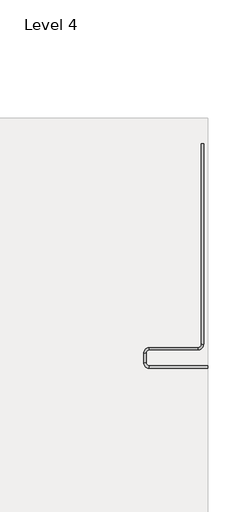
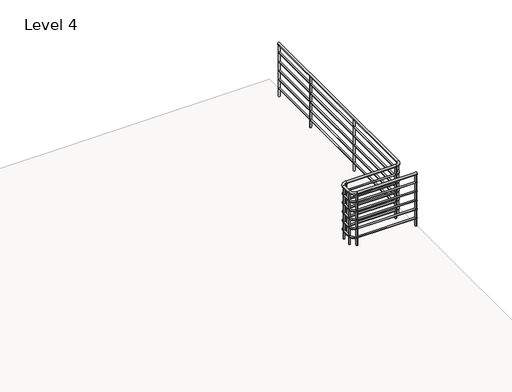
# One storey, part 3 of 4: 1 railing.
"""IFC4 building model written with IfcOpenShell, lengths in millimetres."""

from ifc_helpers import new_model, si_unit, point, frame, frame_2d, origin, place, context, project, spatial, circle_curve, ellipse_curve, trimmed, segment, composite_curve, outline, extrude, element, save
from ifc_brep_helpers import plane_surface, cylinder_surface, revolved_surface, advanced_brep

model = new_model("IFC4")

# Units and contexts
model_context = context("Model", 3, world=origin())
ifc_project = project(units=[si_unit("LENGTHUNIT", "METRE", prefix="MILLI")], contexts=[model_context])

# Site, building, storey
site = spatial("IfcSite", under=ifc_project)
building = spatial("IfcBuilding", under=site)
storey = spatial("IfcBuildingStorey", under=building, Name="Level 4", Elevation=10972.8)

# Railing
placement = place(None, origin())
element("IfcRailing", 1, ObjectType="Handrail - Pipe", at=placement, inside=storey, context=model_context, shape_type="SolidModel", body=[
    advanced_brep(
    [(18023.4049721, 512.0273319, 11868.15), (18023.4049721, 473.9273319, 11868.15), (17058.2049721, 512.0273319, 11868.15), (17058.2049721, 473.9273319, 11868.15), (16962.9549721, 569.1773319, 11868.15), (17001.0549721, 569.1773319, 11868.15), (17001.0549721, 721.5773319, 11868.15), (16962.9549721, 721.5773319, 11868.15), (17058.2049721, 816.8273319, 11868.15), (17058.2049721, 778.7273319, 11868.15), (17861.7339721, 778.7273319, 11868.15), (17861.7339721, 816.8273319, 11868.15), (17956.9839721, 4202.9648319, 11868.15), (17918.8839721, 4202.9648319, 11868.15), (17918.8839721, 873.9773319, 11868.15), (17956.9839721, 873.9773319, 11868.15)],
    [
        (0, 1, circle_curve(frame((18023.4049721, 492.9773319, 11868.15), z_axis=(1.0, 0.0, 0.0), x_axis=(0.0, -1.0, 0.0)), 19.05)),
        (1, 0, circle_curve(frame((18023.4049721, 492.9773319, 11868.15), z_axis=(1.0, 0.0, 0.0), x_axis=(0.0, -1.0, 0.0)), 19.05)),
        (0, 2),
        (2, 3, circle_curve(frame((17058.2049721, 492.9773319, 11868.15), z_axis=(1.0, 0.0, 0.0), x_axis=(0.0, -1.0, 0.0)), 19.05)),
        (3, 1),
        (3, 2, circle_curve(frame((17058.2049721, 492.9773319, 11868.15), z_axis=(1.0, 0.0, 0.0), x_axis=(0.0, -1.0, 0.0)), 19.05)),
        (4, 5, circle_curve(frame((16982.0049721, 569.1773319, 11868.15), z_axis=(0.0, 1.0, 0.0), x_axis=(-1.0, 0.0, 0.0)), 19.05)),
        (5, 6),
        (6, 7, circle_curve(frame((16982.0049721, 721.5773319, 11868.15), z_axis=(0.0, -1.0, 0.0), x_axis=(-1.0, 0.0, 0.0)), 19.05)),
        (7, 4),
        (5, 4, circle_curve(frame((16982.0049721, 569.1773319, 11868.15), z_axis=(0.0, 1.0, 0.0), x_axis=(-1.0, 0.0, 0.0)), 19.05)),
        (7, 6, circle_curve(frame((16982.0049721, 721.5773319, 11868.15), z_axis=(0.0, -1.0, 0.0), x_axis=(-1.0, 0.0, 0.0)), 19.05)),
        (8, 9, circle_curve(frame((17058.2049721, 797.7773319, 11868.15), z_axis=(1.0, 0.0, 0.0), x_axis=(0.0, 1.0, 0.0)), 19.05)),
        (9, 10),
        (10, 11, circle_curve(frame((17861.7339721, 797.7773319, 11868.15), z_axis=(-1.0, 0.0, 0.0), x_axis=(0.0, 1.0, 0.0)), 19.05)),
        (11, 8),
        (9, 8, circle_curve(frame((17058.2049721, 797.7773319, 11868.15), z_axis=(1.0, 0.0, 0.0), x_axis=(0.0, 1.0, 0.0)), 19.05)),
        (11, 10, circle_curve(frame((17861.7339721, 797.7773319, 11868.15), z_axis=(-1.0, 0.0, 0.0), x_axis=(0.0, 1.0, 0.0)), 19.05)),
        (12, 13, circle_curve(frame((17937.9339721, 4202.9648319, 11868.15), z_axis=(0.0, 1.0, 0.0), x_axis=(-1.0, 0.0, 0.0)), 19.05)),
        (13, 12, circle_curve(frame((17937.9339721, 4202.9648319, 11868.15), z_axis=(0.0, 1.0, 0.0), x_axis=(-1.0, 0.0, 0.0)), 19.05)),
        (14, 15, circle_curve(frame((17937.9339721, 873.9773319, 11868.15), z_axis=(0.0, 1.0, 0.0), x_axis=(-1.0, 0.0, 0.0)), 19.05)),
        (15, 12),
        (13, 14),
        (15, 14, circle_curve(frame((17937.9339721, 873.9773319, 11868.15), z_axis=(0.0, 1.0, 0.0), x_axis=(-1.0, 0.0, 0.0)), 19.05)),
        (4, 3, circle_curve(frame((17058.2049721, 569.1773319, 11868.15), z_axis=(0.0, 0.0, 1.0), x_axis=(0.0, -1.0, 0.0)), 95.25)),
        (2, 5, circle_curve(frame((17058.2049721, 569.1773319, 11868.15), z_axis=(0.0, 0.0, -1.0), x_axis=(0.0, -1.0, 0.0)), 57.15)),
        (8, 7, circle_curve(frame((17058.2049721, 721.5773319, 11868.15), z_axis=(0.0, 0.0, 1.0), x_axis=(-1.0, 0.0, 0.0)), 95.25)),
        (6, 9, circle_curve(frame((17058.2049721, 721.5773319, 11868.15), z_axis=(0.0, 0.0, -1.0), x_axis=(-1.0, 0.0, 0.0)), 57.15)),
        (14, 11, circle_curve(frame((17861.7339721, 873.9773319, 11868.15), z_axis=(0.0, 0.0, -1.0), x_axis=(0.0, -1.0, 0.0)), 57.15)),
        (10, 15, circle_curve(frame((17861.7339721, 873.9773319, 11868.15), z_axis=(0.0, 0.0, 1.0), x_axis=(0.0, -1.0, 0.0)), 95.25)),
    ],
    [
        plane_surface(frame((18023.4049721, 492.9773319, 11887.2), z_axis=(1.0, 0.0, 0.0), x_axis=(0.0, -1.0, 0.0))),
        cylinder_surface(frame((18023.4049721, 492.9773319, 11868.15), z_axis=(1.0, 0.0, 0.0), x_axis=(0.0, -1.0, 0.0)), 19.05),
        cylinder_surface(frame((16982.0049721, 569.1773319, 11868.15), z_axis=(0.0, -1.0, 0.0), x_axis=(-1.0, 0.0, 0.0)), 19.05),
        cylinder_surface(frame((17058.2049721, 797.7773319, 11868.15), z_axis=(-1.0, 0.0, 0.0), x_axis=(0.0, 1.0, 0.0)), 19.05),
        plane_surface(frame((17937.9339721, 4202.9648319, 11887.2), z_axis=(0.0, 1.0, 0.0), x_axis=(0.0, 0.0, 1.0))),
        cylinder_surface(frame((17937.9339721, 873.9773319, 11868.15), z_axis=(0.0, -1.0, 0.0), x_axis=(-1.0, 0.0, 0.0)), 19.05),
        revolved_surface(trimmed(ellipse_curve(frame((17058.2049721, 492.9773319, 11868.15), z_axis=(1.0, 0.0, 0.0), x_axis=(0.0, -1.0, 0.0)), 19.05, 19.05), [point((17058.2049721, 512.0273319, 11868.15))], [point((17058.2049721, 473.9273319, 11868.15))], True, "CARTESIAN"), (17058.2049721, 569.1773319, 11887.2), (0.0, 0.0, -1.0)),
        revolved_surface(trimmed(ellipse_curve(frame((17058.2049721, 492.9773319, 11868.15), z_axis=(1.0, 0.0, 0.0), x_axis=(0.0, -1.0, 0.0)), 19.05, 19.05), [point((17058.2049721, 473.9273319, 11868.15))], [point((17058.2049721, 512.0273319, 11868.15))], True, "CARTESIAN"), (17058.2049721, 569.1773319, 11887.2), (0.0, 0.0, -1.0)),
        revolved_surface(trimmed(ellipse_curve(frame((16982.0049721, 721.5773319, 11868.15), z_axis=(0.0, -1.0, 0.0), x_axis=(-1.0, 0.0, 0.0)), 19.05, 19.05), [point((17001.0549721, 721.5773319, 11868.15))], [point((16962.9549721, 721.5773319, 11868.15))], True, "CARTESIAN"), (17058.2049721, 721.5773319, 11887.2), (0.0, 0.0, -1.0)),
        revolved_surface(trimmed(ellipse_curve(frame((16982.0049721, 721.5773319, 11868.15), z_axis=(0.0, -1.0, 0.0), x_axis=(-1.0, 0.0, 0.0)), 19.05, 19.05), [point((16962.9549721, 721.5773319, 11868.15))], [point((17001.0549721, 721.5773319, 11868.15))], True, "CARTESIAN"), (17058.2049721, 721.5773319, 11887.2), (0.0, 0.0, -1.0)),
        revolved_surface(trimmed(ellipse_curve(frame((17861.7339721, 797.7773319, 11868.15), z_axis=(-1.0, 0.0, 0.0), x_axis=(0.0, 1.0, 0.0)), 19.05, 19.05), [point((17861.7339721, 778.7273319, 11868.15))], [point((17861.7339721, 816.8273319, 11868.15))], True, "CARTESIAN"), (17861.7339721, 873.9773319, 11887.2), (0.0, 0.0, 1.0)),
        revolved_surface(trimmed(ellipse_curve(frame((17861.7339721, 797.7773319, 11868.15), z_axis=(-1.0, 0.0, 0.0), x_axis=(0.0, 1.0, 0.0)), 19.05, 19.05), [point((17861.7339721, 816.8273319, 11868.15))], [point((17861.7339721, 778.7273319, 11868.15))], True, "CARTESIAN"), (17861.7339721, 873.9773319, 11887.2), (0.0, 0.0, 1.0)),
    ],
    [
        (0, [[1, 2]]),
        (1, [[-1, 3, 4, 5]]),
        (1, [[-2, -5, 6, -3]]),
        (2, [[7, 8, 9, 10]]),
        (2, [[11, -10, 12, -8]]),
        (3, [[13, 14, 15, 16]]),
        (3, [[17, -16, 18, -14]]),
        (4, [[19, 20]]),
        (5, [[21, 22, -20, 23]]),
        (5, [[24, -23, -19, -22]]),
        (6, [[25, -4, 26, -7]]),
        (7, [[-26, -6, -25, -11]]),
        (8, [[27, -9, 28, -13]]),
        (9, [[-28, -12, -27, -17]]),
        (10, [[29, -15, 30, -21]]),
        (11, [[-30, -18, -29, -24]]),
    ],
),
    advanced_brep(
    [(18023.4049721, 505.6773319, 11722.1), (18023.4049721, 480.2773319, 11722.1), (17058.2049721, 480.2773319, 11722.1), (17058.2049721, 505.6773319, 11722.1), (16994.7049721, 569.1773319, 11722.1), (16969.3049721, 569.1773319, 11722.1), (16969.3049721, 721.5773319, 11722.1), (16994.7049721, 721.5773319, 11722.1), (17058.2049721, 785.0773319, 11722.1), (17058.2049721, 810.4773319, 11722.1), (17861.7339721, 810.4773319, 11722.1), (17861.7339721, 785.0773319, 11722.1), (17950.6339721, 4202.9648319, 11722.1), (17925.2339721, 4202.9648319, 11722.1), (17950.6339721, 873.9773319, 11722.1), (17925.2339721, 873.9773319, 11722.1)],
    [
        (0, 1, circle_curve(frame((18023.4049721, 492.9773319, 11722.1), z_axis=(1.0, 0.0, 0.0), x_axis=(0.0, -1.0, 0.0)), 12.7)),
        (1, 0, circle_curve(frame((18023.4049721, 492.9773319, 11722.1), z_axis=(1.0, 0.0, 0.0), x_axis=(0.0, -1.0, 0.0)), 12.7)),
        (1, 2),
        (2, 3, circle_curve(frame((17058.2049721, 492.9773319, 11722.1), z_axis=(1.0, 0.0, 0.0), x_axis=(0.0, -1.0, 0.0)), 12.7)),
        (3, 0),
        (3, 2, circle_curve(frame((17058.2049721, 492.9773319, 11722.1), z_axis=(1.0, 0.0, 0.0), x_axis=(0.0, -1.0, 0.0)), 12.7)),
        (4, 5, circle_curve(frame((16982.0049721, 569.1773319, 11722.1), z_axis=(0.0, 1.0, 0.0), x_axis=(-1.0, 0.0, 0.0)), 12.7)),
        (5, 6),
        (6, 7, circle_curve(frame((16982.0049721, 721.5773319, 11722.1), z_axis=(0.0, -1.0, 0.0), x_axis=(-1.0, 0.0, 0.0)), 12.7)),
        (7, 4),
        (5, 4, circle_curve(frame((16982.0049721, 569.1773319, 11722.1), z_axis=(0.0, 1.0, 0.0), x_axis=(-1.0, 0.0, 0.0)), 12.7)),
        (7, 6, circle_curve(frame((16982.0049721, 721.5773319, 11722.1), z_axis=(0.0, -1.0, 0.0), x_axis=(-1.0, 0.0, 0.0)), 12.7)),
        (8, 9, circle_curve(frame((17058.2049721, 797.7773319, 11722.1), z_axis=(1.0, 0.0, 0.0), x_axis=(0.0, 1.0, 0.0)), 12.7)),
        (9, 10),
        (10, 11, circle_curve(frame((17861.7339721, 797.7773319, 11722.1), z_axis=(-1.0, 0.0, 0.0), x_axis=(0.0, 1.0, 0.0)), 12.7)),
        (11, 8),
        (9, 8, circle_curve(frame((17058.2049721, 797.7773319, 11722.1), z_axis=(1.0, 0.0, 0.0), x_axis=(0.0, 1.0, 0.0)), 12.7)),
        (11, 10, circle_curve(frame((17861.7339721, 797.7773319, 11722.1), z_axis=(-1.0, 0.0, 0.0), x_axis=(0.0, 1.0, 0.0)), 12.7)),
        (12, 13, circle_curve(frame((17937.9339721, 4202.9648319, 11722.1), z_axis=(0.0, 1.0, 0.0), x_axis=(-1.0, 0.0, 0.0)), 12.7)),
        (13, 12, circle_curve(frame((17937.9339721, 4202.9648319, 11722.1), z_axis=(0.0, 1.0, 0.0), x_axis=(-1.0, 0.0, 0.0)), 12.7)),
        (14, 15, circle_curve(frame((17937.9339721, 873.9773319, 11722.1), z_axis=(0.0, 1.0, 0.0), x_axis=(-1.0, 0.0, 0.0)), 12.7)),
        (15, 13),
        (12, 14),
        (15, 14, circle_curve(frame((17937.9339721, 873.9773319, 11722.1), z_axis=(0.0, 1.0, 0.0), x_axis=(-1.0, 0.0, 0.0)), 12.7)),
        (4, 3, circle_curve(frame((17058.2049721, 569.1773319, 11722.1), z_axis=(0.0, 0.0, 1.0), x_axis=(0.0, -1.0, 0.0)), 63.5)),
        (2, 5, circle_curve(frame((17058.2049721, 569.1773319, 11722.1), z_axis=(0.0, 0.0, -1.0), x_axis=(0.0, -1.0, 0.0)), 88.9)),
        (8, 7, circle_curve(frame((17058.2049721, 721.5773319, 11722.1), z_axis=(0.0, 0.0, 1.0), x_axis=(-1.0, 0.0, 0.0)), 63.5)),
        (6, 9, circle_curve(frame((17058.2049721, 721.5773319, 11722.1), z_axis=(0.0, 0.0, -1.0), x_axis=(-1.0, 0.0, 0.0)), 88.9)),
        (14, 11, circle_curve(frame((17861.7339721, 873.9773319, 11722.1), z_axis=(0.0, 0.0, -1.0), x_axis=(0.0, -1.0, 0.0)), 88.9)),
        (10, 15, circle_curve(frame((17861.7339721, 873.9773319, 11722.1), z_axis=(0.0, 0.0, 1.0), x_axis=(0.0, -1.0, 0.0)), 63.5)),
    ],
    [
        plane_surface(frame((18023.4049721, 492.9773319, 11734.8), z_axis=(1.0, 0.0, 0.0), x_axis=(0.0, -1.0, 0.0))),
        cylinder_surface(frame((18023.4049721, 492.9773319, 11722.1), z_axis=(1.0, 0.0, 0.0), x_axis=(0.0, -1.0, 0.0)), 12.7),
        cylinder_surface(frame((16982.0049721, 569.1773319, 11722.1), z_axis=(0.0, -1.0, 0.0), x_axis=(-1.0, 0.0, 0.0)), 12.7),
        cylinder_surface(frame((17058.2049721, 797.7773319, 11722.1), z_axis=(-1.0, 0.0, 0.0), x_axis=(0.0, 1.0, 0.0)), 12.7),
        plane_surface(frame((17937.9339721, 4202.9648319, 11734.8), z_axis=(0.0, 1.0, 0.0), x_axis=(0.0, 0.0, 1.0))),
        cylinder_surface(frame((17937.9339721, 873.9773319, 11722.1), z_axis=(0.0, -1.0, 0.0), x_axis=(-1.0, 0.0, 0.0)), 12.7),
        revolved_surface(trimmed(ellipse_curve(frame((17058.2049721, 492.9773319, 11722.1), z_axis=(1.0, 0.0, 0.0), x_axis=(0.0, -1.0, 0.0)), 12.7, 12.7), [point((17058.2049721, 480.2773319, 11722.1))], [point((17058.2049721, 505.6773319, 11722.1))], True, "CARTESIAN"), (17058.2049721, 569.1773319, 11734.8), (0.0, 0.0, -1.0)),
        revolved_surface(trimmed(ellipse_curve(frame((17058.2049721, 492.9773319, 11722.1), z_axis=(1.0, 0.0, 0.0), x_axis=(0.0, -1.0, 0.0)), 12.7, 12.7), [point((17058.2049721, 505.6773319, 11722.1))], [point((17058.2049721, 480.2773319, 11722.1))], True, "CARTESIAN"), (17058.2049721, 569.1773319, 11734.8), (0.0, 0.0, -1.0)),
        revolved_surface(trimmed(ellipse_curve(frame((16982.0049721, 721.5773319, 11722.1), z_axis=(0.0, -1.0, 0.0), x_axis=(-1.0, 0.0, 0.0)), 12.7, 12.7), [point((16969.3049721, 721.5773319, 11722.1))], [point((16994.7049721, 721.5773319, 11722.1))], True, "CARTESIAN"), (17058.2049721, 721.5773319, 11734.8), (0.0, 0.0, -1.0)),
        revolved_surface(trimmed(ellipse_curve(frame((16982.0049721, 721.5773319, 11722.1), z_axis=(0.0, -1.0, 0.0), x_axis=(-1.0, 0.0, 0.0)), 12.7, 12.7), [point((16994.7049721, 721.5773319, 11722.1))], [point((16969.3049721, 721.5773319, 11722.1))], True, "CARTESIAN"), (17058.2049721, 721.5773319, 11734.8), (0.0, 0.0, -1.0)),
        revolved_surface(trimmed(ellipse_curve(frame((17861.7339721, 797.7773319, 11722.1), z_axis=(-1.0, 0.0, 0.0), x_axis=(0.0, 1.0, 0.0)), 12.7, 12.7), [point((17861.7339721, 810.4773319, 11722.1))], [point((17861.7339721, 785.0773319, 11722.1))], True, "CARTESIAN"), (17861.7339721, 873.9773319, 11734.8), (0.0, 0.0, 1.0)),
        revolved_surface(trimmed(ellipse_curve(frame((17861.7339721, 797.7773319, 11722.1), z_axis=(-1.0, 0.0, 0.0), x_axis=(0.0, 1.0, 0.0)), 12.7, 12.7), [point((17861.7339721, 785.0773319, 11722.1))], [point((17861.7339721, 810.4773319, 11722.1))], True, "CARTESIAN"), (17861.7339721, 873.9773319, 11734.8), (0.0, 0.0, 1.0)),
    ],
    [
        (0, [[1, 2]]),
        (1, [[-2, 3, 4, 5]]),
        (1, [[-1, -5, 6, -3]]),
        (2, [[7, 8, 9, 10]]),
        (2, [[11, -10, 12, -8]]),
        (3, [[13, 14, 15, 16]]),
        (3, [[17, -16, 18, -14]]),
        (4, [[19, 20]]),
        (5, [[21, 22, -19, 23]]),
        (5, [[24, -23, -20, -22]]),
        (6, [[25, -4, 26, -7]]),
        (7, [[-26, -6, -25, -11]]),
        (8, [[27, -9, 28, -13]]),
        (9, [[-28, -12, -27, -17]]),
        (10, [[29, -15, 30, -21]]),
        (11, [[-30, -18, -29, -24]]),
    ],
),
    advanced_brep(
    [(18023.4049721, 505.6773319, 11569.7), (18023.4049721, 480.2773319, 11569.7), (17058.2049721, 480.2773319, 11569.7), (17058.2049721, 505.6773319, 11569.7), (16994.7049721, 569.1773319, 11569.7), (16969.3049721, 569.1773319, 11569.7), (16969.3049721, 721.5773319, 11569.7), (16994.7049721, 721.5773319, 11569.7), (17058.2049721, 785.0773319, 11569.7), (17058.2049721, 810.4773319, 11569.7), (17861.7339721, 810.4773319, 11569.7), (17861.7339721, 785.0773319, 11569.7), (17950.6339721, 4202.9648319, 11569.7), (17925.2339721, 4202.9648319, 11569.7), (17950.6339721, 873.9773319, 11569.7), (17925.2339721, 873.9773319, 11569.7)],
    [
        (0, 1, circle_curve(frame((18023.4049721, 492.9773319, 11569.7), z_axis=(1.0, 0.0, 0.0), x_axis=(0.0, -1.0, 0.0)), 12.7)),
        (1, 0, circle_curve(frame((18023.4049721, 492.9773319, 11569.7), z_axis=(1.0, 0.0, 0.0), x_axis=(0.0, -1.0, 0.0)), 12.7)),
        (1, 2),
        (2, 3, circle_curve(frame((17058.2049721, 492.9773319, 11569.7), z_axis=(1.0, 0.0, 0.0), x_axis=(0.0, -1.0, 0.0)), 12.7)),
        (3, 0),
        (3, 2, circle_curve(frame((17058.2049721, 492.9773319, 11569.7), z_axis=(1.0, 0.0, 0.0), x_axis=(0.0, -1.0, 0.0)), 12.7)),
        (4, 5, circle_curve(frame((16982.0049721, 569.1773319, 11569.7), z_axis=(0.0, 1.0, 0.0), x_axis=(-1.0, 0.0, 0.0)), 12.7)),
        (5, 6),
        (6, 7, circle_curve(frame((16982.0049721, 721.5773319, 11569.7), z_axis=(0.0, -1.0, 0.0), x_axis=(-1.0, 0.0, 0.0)), 12.7)),
        (7, 4),
        (5, 4, circle_curve(frame((16982.0049721, 569.1773319, 11569.7), z_axis=(0.0, 1.0, 0.0), x_axis=(-1.0, 0.0, 0.0)), 12.7)),
        (7, 6, circle_curve(frame((16982.0049721, 721.5773319, 11569.7), z_axis=(0.0, -1.0, 0.0), x_axis=(-1.0, 0.0, 0.0)), 12.7)),
        (8, 9, circle_curve(frame((17058.2049721, 797.7773319, 11569.7), z_axis=(1.0, 0.0, 0.0), x_axis=(0.0, 1.0, 0.0)), 12.7)),
        (9, 10),
        (10, 11, circle_curve(frame((17861.7339721, 797.7773319, 11569.7), z_axis=(-1.0, 0.0, 0.0), x_axis=(0.0, 1.0, 0.0)), 12.7)),
        (11, 8),
        (9, 8, circle_curve(frame((17058.2049721, 797.7773319, 11569.7), z_axis=(1.0, 0.0, 0.0), x_axis=(0.0, 1.0, 0.0)), 12.7)),
        (11, 10, circle_curve(frame((17861.7339721, 797.7773319, 11569.7), z_axis=(-1.0, 0.0, 0.0), x_axis=(0.0, 1.0, 0.0)), 12.7)),
        (12, 13, circle_curve(frame((17937.9339721, 4202.9648319, 11569.7), z_axis=(0.0, 1.0, 0.0), x_axis=(-1.0, 0.0, 0.0)), 12.7)),
        (13, 12, circle_curve(frame((17937.9339721, 4202.9648319, 11569.7), z_axis=(0.0, 1.0, 0.0), x_axis=(-1.0, 0.0, 0.0)), 12.7)),
        (14, 15, circle_curve(frame((17937.9339721, 873.9773319, 11569.7), z_axis=(0.0, 1.0, 0.0), x_axis=(-1.0, 0.0, 0.0)), 12.7)),
        (15, 13),
        (12, 14),
        (15, 14, circle_curve(frame((17937.9339721, 873.9773319, 11569.7), z_axis=(0.0, 1.0, 0.0), x_axis=(-1.0, 0.0, 0.0)), 12.7)),
        (4, 3, circle_curve(frame((17058.2049721, 569.1773319, 11569.7), z_axis=(0.0, 0.0, 1.0), x_axis=(0.0, -1.0, 0.0)), 63.5)),
        (2, 5, circle_curve(frame((17058.2049721, 569.1773319, 11569.7), z_axis=(0.0, 0.0, -1.0), x_axis=(0.0, -1.0, 0.0)), 88.9)),
        (8, 7, circle_curve(frame((17058.2049721, 721.5773319, 11569.7), z_axis=(0.0, 0.0, 1.0), x_axis=(-1.0, 0.0, 0.0)), 63.5)),
        (6, 9, circle_curve(frame((17058.2049721, 721.5773319, 11569.7), z_axis=(0.0, 0.0, -1.0), x_axis=(-1.0, 0.0, 0.0)), 88.9)),
        (14, 11, circle_curve(frame((17861.7339721, 873.9773319, 11569.7), z_axis=(0.0, 0.0, -1.0), x_axis=(0.0, -1.0, 0.0)), 88.9)),
        (10, 15, circle_curve(frame((17861.7339721, 873.9773319, 11569.7), z_axis=(0.0, 0.0, 1.0), x_axis=(0.0, -1.0, 0.0)), 63.5)),
    ],
    [
        plane_surface(frame((18023.4049721, 492.9773319, 11582.4), z_axis=(1.0, 0.0, 0.0), x_axis=(0.0, -1.0, 0.0))),
        cylinder_surface(frame((18023.4049721, 492.9773319, 11569.7), z_axis=(1.0, 0.0, 0.0), x_axis=(0.0, -1.0, 0.0)), 12.7),
        cylinder_surface(frame((16982.0049721, 569.1773319, 11569.7), z_axis=(0.0, -1.0, 0.0), x_axis=(-1.0, 0.0, 0.0)), 12.7),
        cylinder_surface(frame((17058.2049721, 797.7773319, 11569.7), z_axis=(-1.0, 0.0, 0.0), x_axis=(0.0, 1.0, 0.0)), 12.7),
        plane_surface(frame((17937.9339721, 4202.9648319, 11582.4), z_axis=(0.0, 1.0, 0.0), x_axis=(0.0, 0.0, 1.0))),
        cylinder_surface(frame((17937.9339721, 873.9773319, 11569.7), z_axis=(0.0, -1.0, 0.0), x_axis=(-1.0, 0.0, 0.0)), 12.7),
        revolved_surface(trimmed(ellipse_curve(frame((17058.2049721, 492.9773319, 11569.7), z_axis=(1.0, 0.0, 0.0), x_axis=(0.0, -1.0, 0.0)), 12.7, 12.7), [point((17058.2049721, 480.2773319, 11569.7))], [point((17058.2049721, 505.6773319, 11569.7))], True, "CARTESIAN"), (17058.2049721, 569.1773319, 11582.4), (0.0, 0.0, -1.0)),
        revolved_surface(trimmed(ellipse_curve(frame((17058.2049721, 492.9773319, 11569.7), z_axis=(1.0, 0.0, 0.0), x_axis=(0.0, -1.0, 0.0)), 12.7, 12.7), [point((17058.2049721, 505.6773319, 11569.7))], [point((17058.2049721, 480.2773319, 11569.7))], True, "CARTESIAN"), (17058.2049721, 569.1773319, 11582.4), (0.0, 0.0, -1.0)),
        revolved_surface(trimmed(ellipse_curve(frame((16982.0049721, 721.5773319, 11569.7), z_axis=(0.0, -1.0, 0.0), x_axis=(-1.0, 0.0, 0.0)), 12.7, 12.7), [point((16969.3049721, 721.5773319, 11569.7))], [point((16994.7049721, 721.5773319, 11569.7))], True, "CARTESIAN"), (17058.2049721, 721.5773319, 11582.4), (0.0, 0.0, -1.0)),
        revolved_surface(trimmed(ellipse_curve(frame((16982.0049721, 721.5773319, 11569.7), z_axis=(0.0, -1.0, 0.0), x_axis=(-1.0, 0.0, 0.0)), 12.7, 12.7), [point((16994.7049721, 721.5773319, 11569.7))], [point((16969.3049721, 721.5773319, 11569.7))], True, "CARTESIAN"), (17058.2049721, 721.5773319, 11582.4), (0.0, 0.0, -1.0)),
        revolved_surface(trimmed(ellipse_curve(frame((17861.7339721, 797.7773319, 11569.7), z_axis=(-1.0, 0.0, 0.0), x_axis=(0.0, 1.0, 0.0)), 12.7, 12.7), [point((17861.7339721, 810.4773319, 11569.7))], [point((17861.7339721, 785.0773319, 11569.7))], True, "CARTESIAN"), (17861.7339721, 873.9773319, 11582.4), (0.0, 0.0, 1.0)),
        revolved_surface(trimmed(ellipse_curve(frame((17861.7339721, 797.7773319, 11569.7), z_axis=(-1.0, 0.0, 0.0), x_axis=(0.0, 1.0, 0.0)), 12.7, 12.7), [point((17861.7339721, 785.0773319, 11569.7))], [point((17861.7339721, 810.4773319, 11569.7))], True, "CARTESIAN"), (17861.7339721, 873.9773319, 11582.4), (0.0, 0.0, 1.0)),
    ],
    [
        (0, [[1, 2]]),
        (1, [[-2, 3, 4, 5]]),
        (1, [[-1, -5, 6, -3]]),
        (2, [[7, 8, 9, 10]]),
        (2, [[11, -10, 12, -8]]),
        (3, [[13, 14, 15, 16]]),
        (3, [[17, -16, 18, -14]]),
        (4, [[19, 20]]),
        (5, [[21, 22, -19, 23]]),
        (5, [[24, -23, -20, -22]]),
        (6, [[25, -4, 26, -7]]),
        (7, [[-26, -6, -25, -11]]),
        (8, [[27, -9, 28, -13]]),
        (9, [[-28, -12, -27, -17]]),
        (10, [[29, -15, 30, -21]]),
        (11, [[-30, -18, -29, -24]]),
    ],
),
    advanced_brep(
    [(18023.4049721, 505.6773319, 11417.3), (18023.4049721, 480.2773319, 11417.3), (17058.2049721, 480.2773319, 11417.3), (17058.2049721, 505.6773319, 11417.3), (16994.7049721, 569.1773319, 11417.3), (16969.3049721, 569.1773319, 11417.3), (16969.3049721, 721.5773319, 11417.3), (16994.7049721, 721.5773319, 11417.3), (17058.2049721, 785.0773319, 11417.3), (17058.2049721, 810.4773319, 11417.3), (17861.7339721, 810.4773319, 11417.3), (17861.7339721, 785.0773319, 11417.3), (17950.6339721, 4202.9648319, 11417.3), (17925.2339721, 4202.9648319, 11417.3), (17950.6339721, 873.9773319, 11417.3), (17925.2339721, 873.9773319, 11417.3)],
    [
        (0, 1, circle_curve(frame((18023.4049721, 492.9773319, 11417.3), z_axis=(1.0, 0.0, 0.0), x_axis=(0.0, -1.0, 0.0)), 12.7)),
        (1, 0, circle_curve(frame((18023.4049721, 492.9773319, 11417.3), z_axis=(1.0, 0.0, 0.0), x_axis=(0.0, -1.0, 0.0)), 12.7)),
        (1, 2),
        (2, 3, circle_curve(frame((17058.2049721, 492.9773319, 11417.3), z_axis=(1.0, 0.0, 0.0), x_axis=(0.0, -1.0, 0.0)), 12.7)),
        (3, 0),
        (3, 2, circle_curve(frame((17058.2049721, 492.9773319, 11417.3), z_axis=(1.0, 0.0, 0.0), x_axis=(0.0, -1.0, 0.0)), 12.7)),
        (4, 5, circle_curve(frame((16982.0049721, 569.1773319, 11417.3), z_axis=(0.0, 1.0, 0.0), x_axis=(-1.0, 0.0, 0.0)), 12.7)),
        (5, 6),
        (6, 7, circle_curve(frame((16982.0049721, 721.5773319, 11417.3), z_axis=(0.0, -1.0, 0.0), x_axis=(-1.0, 0.0, 0.0)), 12.7)),
        (7, 4),
        (5, 4, circle_curve(frame((16982.0049721, 569.1773319, 11417.3), z_axis=(0.0, 1.0, 0.0), x_axis=(-1.0, 0.0, 0.0)), 12.7)),
        (7, 6, circle_curve(frame((16982.0049721, 721.5773319, 11417.3), z_axis=(0.0, -1.0, 0.0), x_axis=(-1.0, 0.0, 0.0)), 12.7)),
        (8, 9, circle_curve(frame((17058.2049721, 797.7773319, 11417.3), z_axis=(1.0, 0.0, 0.0), x_axis=(0.0, 1.0, 0.0)), 12.7)),
        (9, 10),
        (10, 11, circle_curve(frame((17861.7339721, 797.7773319, 11417.3), z_axis=(-1.0, 0.0, 0.0), x_axis=(0.0, 1.0, 0.0)), 12.7)),
        (11, 8),
        (9, 8, circle_curve(frame((17058.2049721, 797.7773319, 11417.3), z_axis=(1.0, 0.0, 0.0), x_axis=(0.0, 1.0, 0.0)), 12.7)),
        (11, 10, circle_curve(frame((17861.7339721, 797.7773319, 11417.3), z_axis=(-1.0, 0.0, 0.0), x_axis=(0.0, 1.0, 0.0)), 12.7)),
        (12, 13, circle_curve(frame((17937.9339721, 4202.9648319, 11417.3), z_axis=(0.0, 1.0, 0.0), x_axis=(-1.0, 0.0, 0.0)), 12.7)),
        (13, 12, circle_curve(frame((17937.9339721, 4202.9648319, 11417.3), z_axis=(0.0, 1.0, 0.0), x_axis=(-1.0, 0.0, 0.0)), 12.7)),
        (14, 15, circle_curve(frame((17937.9339721, 873.9773319, 11417.3), z_axis=(0.0, 1.0, 0.0), x_axis=(-1.0, 0.0, 0.0)), 12.7)),
        (15, 13),
        (12, 14),
        (15, 14, circle_curve(frame((17937.9339721, 873.9773319, 11417.3), z_axis=(0.0, 1.0, 0.0), x_axis=(-1.0, 0.0, 0.0)), 12.7)),
        (4, 3, circle_curve(frame((17058.2049721, 569.1773319, 11417.3), z_axis=(0.0, 0.0, 1.0), x_axis=(0.0, -1.0, 0.0)), 63.5)),
        (2, 5, circle_curve(frame((17058.2049721, 569.1773319, 11417.3), z_axis=(0.0, 0.0, -1.0), x_axis=(0.0, -1.0, 0.0)), 88.9)),
        (8, 7, circle_curve(frame((17058.2049721, 721.5773319, 11417.3), z_axis=(0.0, 0.0, 1.0), x_axis=(-1.0, 0.0, 0.0)), 63.5)),
        (6, 9, circle_curve(frame((17058.2049721, 721.5773319, 11417.3), z_axis=(0.0, 0.0, -1.0), x_axis=(-1.0, 0.0, 0.0)), 88.9)),
        (14, 11, circle_curve(frame((17861.7339721, 873.9773319, 11417.3), z_axis=(0.0, 0.0, -1.0), x_axis=(0.0, -1.0, 0.0)), 88.9)),
        (10, 15, circle_curve(frame((17861.7339721, 873.9773319, 11417.3), z_axis=(0.0, 0.0, 1.0), x_axis=(0.0, -1.0, 0.0)), 63.5)),
    ],
    [
        plane_surface(frame((18023.4049721, 492.9773319, 11430.0), z_axis=(1.0, 0.0, 0.0), x_axis=(0.0, -1.0, 0.0))),
        cylinder_surface(frame((18023.4049721, 492.9773319, 11417.3), z_axis=(1.0, 0.0, 0.0), x_axis=(0.0, -1.0, 0.0)), 12.7),
        cylinder_surface(frame((16982.0049721, 569.1773319, 11417.3), z_axis=(0.0, -1.0, 0.0), x_axis=(-1.0, 0.0, 0.0)), 12.7),
        cylinder_surface(frame((17058.2049721, 797.7773319, 11417.3), z_axis=(-1.0, 0.0, 0.0), x_axis=(0.0, 1.0, 0.0)), 12.7),
        plane_surface(frame((17937.9339721, 4202.9648319, 11430.0), z_axis=(0.0, 1.0, 0.0), x_axis=(0.0, 0.0, 1.0))),
        cylinder_surface(frame((17937.9339721, 873.9773319, 11417.3), z_axis=(0.0, -1.0, 0.0), x_axis=(-1.0, 0.0, 0.0)), 12.7),
        revolved_surface(trimmed(ellipse_curve(frame((17058.2049721, 492.9773319, 11417.3), z_axis=(1.0, 0.0, 0.0), x_axis=(0.0, -1.0, 0.0)), 12.7, 12.7), [point((17058.2049721, 480.2773319, 11417.3))], [point((17058.2049721, 505.6773319, 11417.3))], True, "CARTESIAN"), (17058.2049721, 569.1773319, 11430.0), (0.0, 0.0, -1.0)),
        revolved_surface(trimmed(ellipse_curve(frame((17058.2049721, 492.9773319, 11417.3), z_axis=(1.0, 0.0, 0.0), x_axis=(0.0, -1.0, 0.0)), 12.7, 12.7), [point((17058.2049721, 505.6773319, 11417.3))], [point((17058.2049721, 480.2773319, 11417.3))], True, "CARTESIAN"), (17058.2049721, 569.1773319, 11430.0), (0.0, 0.0, -1.0)),
        revolved_surface(trimmed(ellipse_curve(frame((16982.0049721, 721.5773319, 11417.3), z_axis=(0.0, -1.0, 0.0), x_axis=(-1.0, 0.0, 0.0)), 12.7, 12.7), [point((16969.3049721, 721.5773319, 11417.3))], [point((16994.7049721, 721.5773319, 11417.3))], True, "CARTESIAN"), (17058.2049721, 721.5773319, 11430.0), (0.0, 0.0, -1.0)),
        revolved_surface(trimmed(ellipse_curve(frame((16982.0049721, 721.5773319, 11417.3), z_axis=(0.0, -1.0, 0.0), x_axis=(-1.0, 0.0, 0.0)), 12.7, 12.7), [point((16994.7049721, 721.5773319, 11417.3))], [point((16969.3049721, 721.5773319, 11417.3))], True, "CARTESIAN"), (17058.2049721, 721.5773319, 11430.0), (0.0, 0.0, -1.0)),
        revolved_surface(trimmed(ellipse_curve(frame((17861.7339721, 797.7773319, 11417.3), z_axis=(-1.0, 0.0, 0.0), x_axis=(0.0, 1.0, 0.0)), 12.7, 12.7), [point((17861.7339721, 810.4773319, 11417.3))], [point((17861.7339721, 785.0773319, 11417.3))], True, "CARTESIAN"), (17861.7339721, 873.9773319, 11430.0), (0.0, 0.0, 1.0)),
        revolved_surface(trimmed(ellipse_curve(frame((17861.7339721, 797.7773319, 11417.3), z_axis=(-1.0, 0.0, 0.0), x_axis=(0.0, 1.0, 0.0)), 12.7, 12.7), [point((17861.7339721, 785.0773319, 11417.3))], [point((17861.7339721, 810.4773319, 11417.3))], True, "CARTESIAN"), (17861.7339721, 873.9773319, 11430.0), (0.0, 0.0, 1.0)),
    ],
    [
        (0, [[1, 2]]),
        (1, [[-2, 3, 4, 5]]),
        (1, [[-1, -5, 6, -3]]),
        (2, [[7, 8, 9, 10]]),
        (2, [[11, -10, 12, -8]]),
        (3, [[13, 14, 15, 16]]),
        (3, [[17, -16, 18, -14]]),
        (4, [[19, 20]]),
        (5, [[21, 22, -19, 23]]),
        (5, [[24, -23, -20, -22]]),
        (6, [[25, -4, 26, -7]]),
        (7, [[-26, -6, -25, -11]]),
        (8, [[27, -9, 28, -13]]),
        (9, [[-28, -12, -27, -17]]),
        (10, [[29, -15, 30, -21]]),
        (11, [[-30, -18, -29, -24]]),
    ],
),
    advanced_brep(
    [(18023.4049721, 505.6773319, 11264.9), (18023.4049721, 480.2773319, 11264.9), (17058.2049721, 480.2773319, 11264.9), (17058.2049721, 505.6773319, 11264.9), (16994.7049721, 569.1773319, 11264.9), (16969.3049721, 569.1773319, 11264.9), (16969.3049721, 721.5773319, 11264.9), (16994.7049721, 721.5773319, 11264.9), (17058.2049721, 785.0773319, 11264.9), (17058.2049721, 810.4773319, 11264.9), (17861.7339721, 810.4773319, 11264.9), (17861.7339721, 785.0773319, 11264.9), (17950.6339721, 4202.9648319, 11264.9), (17925.2339721, 4202.9648319, 11264.9), (17950.6339721, 873.9773319, 11264.9), (17925.2339721, 873.9773319, 11264.9)],
    [
        (0, 1, circle_curve(frame((18023.4049721, 492.9773319, 11264.9), z_axis=(1.0, 0.0, 0.0), x_axis=(0.0, -1.0, 0.0)), 12.7)),
        (1, 0, circle_curve(frame((18023.4049721, 492.9773319, 11264.9), z_axis=(1.0, 0.0, 0.0), x_axis=(0.0, -1.0, 0.0)), 12.7)),
        (1, 2),
        (2, 3, circle_curve(frame((17058.2049721, 492.9773319, 11264.9), z_axis=(1.0, 0.0, 0.0), x_axis=(0.0, -1.0, 0.0)), 12.7)),
        (3, 0),
        (3, 2, circle_curve(frame((17058.2049721, 492.9773319, 11264.9), z_axis=(1.0, 0.0, 0.0), x_axis=(0.0, -1.0, 0.0)), 12.7)),
        (4, 5, circle_curve(frame((16982.0049721, 569.1773319, 11264.9), z_axis=(0.0, 1.0, 0.0), x_axis=(-1.0, 0.0, 0.0)), 12.7)),
        (5, 6),
        (6, 7, circle_curve(frame((16982.0049721, 721.5773319, 11264.9), z_axis=(0.0, -1.0, 0.0), x_axis=(-1.0, 0.0, 0.0)), 12.7)),
        (7, 4),
        (5, 4, circle_curve(frame((16982.0049721, 569.1773319, 11264.9), z_axis=(0.0, 1.0, 0.0), x_axis=(-1.0, 0.0, 0.0)), 12.7)),
        (7, 6, circle_curve(frame((16982.0049721, 721.5773319, 11264.9), z_axis=(0.0, -1.0, 0.0), x_axis=(-1.0, 0.0, 0.0)), 12.7)),
        (8, 9, circle_curve(frame((17058.2049721, 797.7773319, 11264.9), z_axis=(1.0, 0.0, 0.0), x_axis=(0.0, 1.0, 0.0)), 12.7)),
        (9, 10),
        (10, 11, circle_curve(frame((17861.7339721, 797.7773319, 11264.9), z_axis=(-1.0, 0.0, 0.0), x_axis=(0.0, 1.0, 0.0)), 12.7)),
        (11, 8),
        (9, 8, circle_curve(frame((17058.2049721, 797.7773319, 11264.9), z_axis=(1.0, 0.0, 0.0), x_axis=(0.0, 1.0, 0.0)), 12.7)),
        (11, 10, circle_curve(frame((17861.7339721, 797.7773319, 11264.9), z_axis=(-1.0, 0.0, 0.0), x_axis=(0.0, 1.0, 0.0)), 12.7)),
        (12, 13, circle_curve(frame((17937.9339721, 4202.9648319, 11264.9), z_axis=(0.0, 1.0, 0.0), x_axis=(-1.0, 0.0, 0.0)), 12.7)),
        (13, 12, circle_curve(frame((17937.9339721, 4202.9648319, 11264.9), z_axis=(0.0, 1.0, 0.0), x_axis=(-1.0, 0.0, 0.0)), 12.7)),
        (14, 15, circle_curve(frame((17937.9339721, 873.9773319, 11264.9), z_axis=(0.0, 1.0, 0.0), x_axis=(-1.0, 0.0, 0.0)), 12.7)),
        (15, 13),
        (12, 14),
        (15, 14, circle_curve(frame((17937.9339721, 873.9773319, 11264.9), z_axis=(0.0, 1.0, 0.0), x_axis=(-1.0, 0.0, 0.0)), 12.7)),
        (4, 3, circle_curve(frame((17058.2049721, 569.1773319, 11264.9), z_axis=(0.0, 0.0, 1.0), x_axis=(0.0, -1.0, 0.0)), 63.5)),
        (2, 5, circle_curve(frame((17058.2049721, 569.1773319, 11264.9), z_axis=(0.0, 0.0, -1.0), x_axis=(0.0, -1.0, 0.0)), 88.9)),
        (8, 7, circle_curve(frame((17058.2049721, 721.5773319, 11264.9), z_axis=(0.0, 0.0, 1.0), x_axis=(-1.0, 0.0, 0.0)), 63.5)),
        (6, 9, circle_curve(frame((17058.2049721, 721.5773319, 11264.9), z_axis=(0.0, 0.0, -1.0), x_axis=(-1.0, 0.0, 0.0)), 88.9)),
        (14, 11, circle_curve(frame((17861.7339721, 873.9773319, 11264.9), z_axis=(0.0, 0.0, -1.0), x_axis=(0.0, -1.0, 0.0)), 88.9)),
        (10, 15, circle_curve(frame((17861.7339721, 873.9773319, 11264.9), z_axis=(0.0, 0.0, 1.0), x_axis=(0.0, -1.0, 0.0)), 63.5)),
    ],
    [
        plane_surface(frame((18023.4049721, 492.9773319, 11277.6), z_axis=(1.0, 0.0, 0.0), x_axis=(0.0, -1.0, 0.0))),
        cylinder_surface(frame((18023.4049721, 492.9773319, 11264.9), z_axis=(1.0, 0.0, 0.0), x_axis=(0.0, -1.0, 0.0)), 12.7),
        cylinder_surface(frame((16982.0049721, 569.1773319, 11264.9), z_axis=(0.0, -1.0, 0.0), x_axis=(-1.0, 0.0, 0.0)), 12.7),
        cylinder_surface(frame((17058.2049721, 797.7773319, 11264.9), z_axis=(-1.0, 0.0, 0.0), x_axis=(0.0, 1.0, 0.0)), 12.7),
        plane_surface(frame((17937.9339721, 4202.9648319, 11277.6), z_axis=(0.0, 1.0, 0.0), x_axis=(0.0, 0.0, 1.0))),
        cylinder_surface(frame((17937.9339721, 873.9773319, 11264.9), z_axis=(0.0, -1.0, 0.0), x_axis=(-1.0, 0.0, 0.0)), 12.7),
        revolved_surface(trimmed(ellipse_curve(frame((17058.2049721, 492.9773319, 11264.9), z_axis=(1.0, 0.0, 0.0), x_axis=(0.0, -1.0, 0.0)), 12.7, 12.7), [point((17058.2049721, 480.2773319, 11264.9))], [point((17058.2049721, 505.6773319, 11264.9))], True, "CARTESIAN"), (17058.2049721, 569.1773319, 11277.6), (0.0, 0.0, -1.0)),
        revolved_surface(trimmed(ellipse_curve(frame((17058.2049721, 492.9773319, 11264.9), z_axis=(1.0, 0.0, 0.0), x_axis=(0.0, -1.0, 0.0)), 12.7, 12.7), [point((17058.2049721, 505.6773319, 11264.9))], [point((17058.2049721, 480.2773319, 11264.9))], True, "CARTESIAN"), (17058.2049721, 569.1773319, 11277.6), (0.0, 0.0, -1.0)),
        revolved_surface(trimmed(ellipse_curve(frame((16982.0049721, 721.5773319, 11264.9), z_axis=(0.0, -1.0, 0.0), x_axis=(-1.0, 0.0, 0.0)), 12.7, 12.7), [point((16969.3049721, 721.5773319, 11264.9))], [point((16994.7049721, 721.5773319, 11264.9))], True, "CARTESIAN"), (17058.2049721, 721.5773319, 11277.6), (0.0, 0.0, -1.0)),
        revolved_surface(trimmed(ellipse_curve(frame((16982.0049721, 721.5773319, 11264.9), z_axis=(0.0, -1.0, 0.0), x_axis=(-1.0, 0.0, 0.0)), 12.7, 12.7), [point((16994.7049721, 721.5773319, 11264.9))], [point((16969.3049721, 721.5773319, 11264.9))], True, "CARTESIAN"), (17058.2049721, 721.5773319, 11277.6), (0.0, 0.0, -1.0)),
        revolved_surface(trimmed(ellipse_curve(frame((17861.7339721, 797.7773319, 11264.9), z_axis=(-1.0, 0.0, 0.0), x_axis=(0.0, 1.0, 0.0)), 12.7, 12.7), [point((17861.7339721, 810.4773319, 11264.9))], [point((17861.7339721, 785.0773319, 11264.9))], True, "CARTESIAN"), (17861.7339721, 873.9773319, 11277.6), (0.0, 0.0, 1.0)),
        revolved_surface(trimmed(ellipse_curve(frame((17861.7339721, 797.7773319, 11264.9), z_axis=(-1.0, 0.0, 0.0), x_axis=(0.0, 1.0, 0.0)), 12.7, 12.7), [point((17861.7339721, 785.0773319, 11264.9))], [point((17861.7339721, 810.4773319, 11264.9))], True, "CARTESIAN"), (17861.7339721, 873.9773319, 11277.6), (0.0, 0.0, 1.0)),
    ],
    [
        (0, [[1, 2]]),
        (1, [[-2, 3, 4, 5]]),
        (1, [[-1, -5, 6, -3]]),
        (2, [[7, 8, 9, 10]]),
        (2, [[11, -10, 12, -8]]),
        (3, [[13, 14, 15, 16]]),
        (3, [[17, -16, 18, -14]]),
        (4, [[19, 20]]),
        (5, [[21, 22, -19, 23]]),
        (5, [[24, -23, -20, -22]]),
        (6, [[25, -4, 26, -7]]),
        (7, [[-26, -6, -25, -11]]),
        (8, [[27, -9, 28, -13]]),
        (9, [[-28, -12, -27, -17]]),
        (10, [[29, -15, 30, -21]]),
        (11, [[-30, -18, -29, -24]]),
    ],
),
    advanced_brep(
    [(18023.4049721, 505.6773319, 11112.5), (18023.4049721, 480.2773319, 11112.5), (17058.2049721, 480.2773319, 11112.5), (17058.2049721, 505.6773319, 11112.5), (16994.7049721, 569.1773319, 11112.5), (16969.3049721, 569.1773319, 11112.5), (16969.3049721, 721.5773319, 11112.5), (16994.7049721, 721.5773319, 11112.5), (17058.2049721, 785.0773319, 11112.5), (17058.2049721, 810.4773319, 11112.5), (17861.7339721, 810.4773319, 11112.5), (17861.7339721, 785.0773319, 11112.5), (17950.6339721, 4202.9648319, 11112.5), (17925.2339721, 4202.9648319, 11112.5), (17950.6339721, 873.9773319, 11112.5), (17925.2339721, 873.9773319, 11112.5)],
    [
        (0, 1, circle_curve(frame((18023.4049721, 492.9773319, 11112.5), z_axis=(1.0, 0.0, 0.0), x_axis=(0.0, -1.0, 0.0)), 12.7)),
        (1, 0, circle_curve(frame((18023.4049721, 492.9773319, 11112.5), z_axis=(1.0, 0.0, 0.0), x_axis=(0.0, -1.0, 0.0)), 12.7)),
        (1, 2),
        (2, 3, circle_curve(frame((17058.2049721, 492.9773319, 11112.5), z_axis=(1.0, 0.0, 0.0), x_axis=(0.0, -1.0, 0.0)), 12.7)),
        (3, 0),
        (3, 2, circle_curve(frame((17058.2049721, 492.9773319, 11112.5), z_axis=(1.0, 0.0, 0.0), x_axis=(0.0, -1.0, 0.0)), 12.7)),
        (4, 5, circle_curve(frame((16982.0049721, 569.1773319, 11112.5), z_axis=(0.0, 1.0, 0.0), x_axis=(-1.0, 0.0, 0.0)), 12.7)),
        (5, 6),
        (6, 7, circle_curve(frame((16982.0049721, 721.5773319, 11112.5), z_axis=(0.0, -1.0, 0.0), x_axis=(-1.0, 0.0, 0.0)), 12.7)),
        (7, 4),
        (5, 4, circle_curve(frame((16982.0049721, 569.1773319, 11112.5), z_axis=(0.0, 1.0, 0.0), x_axis=(-1.0, 0.0, 0.0)), 12.7)),
        (7, 6, circle_curve(frame((16982.0049721, 721.5773319, 11112.5), z_axis=(0.0, -1.0, 0.0), x_axis=(-1.0, 0.0, 0.0)), 12.7)),
        (8, 9, circle_curve(frame((17058.2049721, 797.7773319, 11112.5), z_axis=(1.0, 0.0, 0.0), x_axis=(0.0, 1.0, 0.0)), 12.7)),
        (9, 10),
        (10, 11, circle_curve(frame((17861.7339721, 797.7773319, 11112.5), z_axis=(-1.0, 0.0, 0.0), x_axis=(0.0, 1.0, 0.0)), 12.7)),
        (11, 8),
        (9, 8, circle_curve(frame((17058.2049721, 797.7773319, 11112.5), z_axis=(1.0, 0.0, 0.0), x_axis=(0.0, 1.0, 0.0)), 12.7)),
        (11, 10, circle_curve(frame((17861.7339721, 797.7773319, 11112.5), z_axis=(-1.0, 0.0, 0.0), x_axis=(0.0, 1.0, 0.0)), 12.7)),
        (12, 13, circle_curve(frame((17937.9339721, 4202.9648319, 11112.5), z_axis=(0.0, 1.0, 0.0), x_axis=(-1.0, 0.0, 0.0)), 12.7)),
        (13, 12, circle_curve(frame((17937.9339721, 4202.9648319, 11112.5), z_axis=(0.0, 1.0, 0.0), x_axis=(-1.0, 0.0, 0.0)), 12.7)),
        (14, 15, circle_curve(frame((17937.9339721, 873.9773319, 11112.5), z_axis=(0.0, 1.0, 0.0), x_axis=(-1.0, 0.0, 0.0)), 12.7)),
        (15, 13),
        (12, 14),
        (15, 14, circle_curve(frame((17937.9339721, 873.9773319, 11112.5), z_axis=(0.0, 1.0, 0.0), x_axis=(-1.0, 0.0, 0.0)), 12.7)),
        (4, 3, circle_curve(frame((17058.2049721, 569.1773319, 11112.5), z_axis=(0.0, 0.0, 1.0), x_axis=(0.0, -1.0, 0.0)), 63.5)),
        (2, 5, circle_curve(frame((17058.2049721, 569.1773319, 11112.5), z_axis=(0.0, 0.0, -1.0), x_axis=(0.0, -1.0, 0.0)), 88.9)),
        (8, 7, circle_curve(frame((17058.2049721, 721.5773319, 11112.5), z_axis=(0.0, 0.0, 1.0), x_axis=(-1.0, 0.0, 0.0)), 63.5)),
        (6, 9, circle_curve(frame((17058.2049721, 721.5773319, 11112.5), z_axis=(0.0, 0.0, -1.0), x_axis=(-1.0, 0.0, 0.0)), 88.9)),
        (14, 11, circle_curve(frame((17861.7339721, 873.9773319, 11112.5), z_axis=(0.0, 0.0, -1.0), x_axis=(0.0, -1.0, 0.0)), 88.9)),
        (10, 15, circle_curve(frame((17861.7339721, 873.9773319, 11112.5), z_axis=(0.0, 0.0, 1.0), x_axis=(0.0, -1.0, 0.0)), 63.5)),
    ],
    [
        plane_surface(frame((18023.4049721, 492.9773319, 11125.2), z_axis=(1.0, 0.0, 0.0), x_axis=(0.0, -1.0, 0.0))),
        cylinder_surface(frame((18023.4049721, 492.9773319, 11112.5), z_axis=(1.0, 0.0, 0.0), x_axis=(0.0, -1.0, 0.0)), 12.7),
        cylinder_surface(frame((16982.0049721, 569.1773319, 11112.5), z_axis=(0.0, -1.0, 0.0), x_axis=(-1.0, 0.0, 0.0)), 12.7),
        cylinder_surface(frame((17058.2049721, 797.7773319, 11112.5), z_axis=(-1.0, 0.0, 0.0), x_axis=(0.0, 1.0, 0.0)), 12.7),
        plane_surface(frame((17937.9339721, 4202.9648319, 11125.2), z_axis=(0.0, 1.0, 0.0), x_axis=(0.0, 0.0, 1.0))),
        cylinder_surface(frame((17937.9339721, 873.9773319, 11112.5), z_axis=(0.0, -1.0, 0.0), x_axis=(-1.0, 0.0, 0.0)), 12.7),
        revolved_surface(trimmed(ellipse_curve(frame((17058.2049721, 492.9773319, 11112.5), z_axis=(1.0, 0.0, 0.0), x_axis=(0.0, -1.0, 0.0)), 12.7, 12.7), [point((17058.2049721, 480.2773319, 11112.5))], [point((17058.2049721, 505.6773319, 11112.5))], True, "CARTESIAN"), (17058.2049721, 569.1773319, 11125.2), (0.0, 0.0, -1.0)),
        revolved_surface(trimmed(ellipse_curve(frame((17058.2049721, 492.9773319, 11112.5), z_axis=(1.0, 0.0, 0.0), x_axis=(0.0, -1.0, 0.0)), 12.7, 12.7), [point((17058.2049721, 505.6773319, 11112.5))], [point((17058.2049721, 480.2773319, 11112.5))], True, "CARTESIAN"), (17058.2049721, 569.1773319, 11125.2), (0.0, 0.0, -1.0)),
        revolved_surface(trimmed(ellipse_curve(frame((16982.0049721, 721.5773319, 11112.5), z_axis=(0.0, -1.0, 0.0), x_axis=(-1.0, 0.0, 0.0)), 12.7, 12.7), [point((16969.3049721, 721.5773319, 11112.5))], [point((16994.7049721, 721.5773319, 11112.5))], True, "CARTESIAN"), (17058.2049721, 721.5773319, 11125.2), (0.0, 0.0, -1.0)),
        revolved_surface(trimmed(ellipse_curve(frame((16982.0049721, 721.5773319, 11112.5), z_axis=(0.0, -1.0, 0.0), x_axis=(-1.0, 0.0, 0.0)), 12.7, 12.7), [point((16994.7049721, 721.5773319, 11112.5))], [point((16969.3049721, 721.5773319, 11112.5))], True, "CARTESIAN"), (17058.2049721, 721.5773319, 11125.2), (0.0, 0.0, -1.0)),
        revolved_surface(trimmed(ellipse_curve(frame((17861.7339721, 797.7773319, 11112.5), z_axis=(-1.0, 0.0, 0.0), x_axis=(0.0, 1.0, 0.0)), 12.7, 12.7), [point((17861.7339721, 810.4773319, 11112.5))], [point((17861.7339721, 785.0773319, 11112.5))], True, "CARTESIAN"), (17861.7339721, 873.9773319, 11125.2), (0.0, 0.0, 1.0)),
        revolved_surface(trimmed(ellipse_curve(frame((17861.7339721, 797.7773319, 11112.5), z_axis=(-1.0, 0.0, 0.0), x_axis=(0.0, 1.0, 0.0)), 12.7, 12.7), [point((17861.7339721, 785.0773319, 11112.5))], [point((17861.7339721, 810.4773319, 11112.5))], True, "CARTESIAN"), (17861.7339721, 873.9773319, 11125.2), (0.0, 0.0, 1.0)),
    ],
    [
        (0, [[1, 2]]),
        (1, [[-2, 3, 4, 5]]),
        (1, [[-1, -5, 6, -3]]),
        (2, [[7, 8, 9, 10]]),
        (2, [[11, -10, 12, -8]]),
        (3, [[13, 14, 15, 16]]),
        (3, [[17, -16, 18, -14]]),
        (4, [[19, 20]]),
        (5, [[21, 22, -19, 23]]),
        (5, [[24, -23, -20, -22]]),
        (6, [[25, -4, 26, -7]]),
        (7, [[-26, -6, -25, -11]]),
        (8, [[27, -9, 28, -13]]),
        (9, [[-28, -12, -27, -17]]),
        (10, [[29, -15, 30, -21]]),
        (11, [[-30, -18, -29, -24]]),
    ],
),
    extrude(outline(composite_curve([segment(trimmed(circle_curve(frame_2d((17937.9339721, 3312.3773319)), 12.7), [point((17950.6339721, 3312.3773319))], [point((17925.2339721, 3312.3773319))], False, "CARTESIAN"), True, "CONTINUOUS"), segment(trimmed(circle_curve(frame_2d((17937.9339721, 3312.3773319)), 12.7), [point((17925.2339721, 3312.3773319))], [point((17950.6339721, 3312.3773319))], False, "CARTESIAN"), True, "CONTINUOUS")], self_intersect=False)), frame((0.0, 0.0, 10972.8), z_axis=(0.0, 0.0, 1.0), x_axis=(1.0, 0.0, 0.0)), (0.0, 0.0, 1.0), 876.3),
    extrude(outline(composite_curve([segment(trimmed(circle_curve(frame_2d((17937.9339721, 2093.1773319)), 12.7), [point((17950.6339721, 2093.1773319))], [point((17925.2339721, 2093.1773319))], False, "CARTESIAN"), True, "CONTINUOUS"), segment(trimmed(circle_curve(frame_2d((17937.9339721, 2093.1773319)), 12.7), [point((17925.2339721, 2093.1773319))], [point((17950.6339721, 2093.1773319))], False, "CARTESIAN"), True, "CONTINUOUS")], self_intersect=False)), frame((0.0, 0.0, 10972.8), z_axis=(0.0, 0.0, 1.0), x_axis=(1.0, 0.0, 0.0)), (0.0, 0.0, 1.0), 876.3),
    extrude(outline(composite_curve([segment(trimmed(circle_curve(frame_2d((17937.9339721, 873.9773319)), 12.7), [point((17950.6339721, 873.9773319))], [point((17925.2339721, 873.9773319))], False, "CARTESIAN"), True, "CONTINUOUS"), segment(trimmed(circle_curve(frame_2d((17937.9339721, 873.9773319)), 12.7), [point((17925.2339721, 873.9773319))], [point((17950.6339721, 873.9773319))], False, "CARTESIAN"), True, "CONTINUOUS")], self_intersect=False)), frame((0.0, 0.0, 10972.8), z_axis=(0.0, 0.0, 1.0), x_axis=(1.0, 0.0, 0.0)), (0.0, 0.0, 1.0), 876.3),
    extrude(outline(composite_curve([segment(trimmed(circle_curve(frame_2d((17861.7339721, 797.7773319)), 12.7), [point((17861.7339721, 785.0773319))], [point((17861.7339721, 810.4773319))], False, "CARTESIAN"), True, "CONTINUOUS"), segment(trimmed(circle_curve(frame_2d((17861.7339721, 797.7773319)), 12.7), [point((17861.7339721, 810.4773319))], [point((17861.7339721, 785.0773319))], False, "CARTESIAN"), True, "CONTINUOUS")], self_intersect=False)), frame((0.0, 0.0, 10972.8), z_axis=(0.0, 0.0, 1.0), x_axis=(1.0, 0.0, 0.0)), (0.0, 0.0, 1.0), 876.3),
    extrude(outline(composite_curve([segment(trimmed(circle_curve(frame_2d((17058.2049721, 797.7773319)), 12.7), [point((17058.2049721, 785.0773319))], [point((17058.2049721, 810.4773319))], False, "CARTESIAN"), True, "CONTINUOUS"), segment(trimmed(circle_curve(frame_2d((17058.2049721, 797.7773319)), 12.7), [point((17058.2049721, 810.4773319))], [point((17058.2049721, 785.0773319))], False, "CARTESIAN"), True, "CONTINUOUS")], self_intersect=False)), frame((0.0, 0.0, 10972.8), z_axis=(0.0, 0.0, 1.0), x_axis=(1.0, 0.0, 0.0)), (0.0, 0.0, 1.0), 876.3),
    extrude(outline(composite_curve([segment(trimmed(circle_curve(frame_2d((16982.0049721, 721.5773319)), 12.7), [point((16994.7049721, 721.5773319))], [point((16969.3049721, 721.5773319))], False, "CARTESIAN"), True, "CONTINUOUS"), segment(trimmed(circle_curve(frame_2d((16982.0049721, 721.5773319)), 12.7), [point((16969.3049721, 721.5773319))], [point((16994.7049721, 721.5773319))], False, "CARTESIAN"), True, "CONTINUOUS")], self_intersect=False)), frame((0.0, 0.0, 10972.8), z_axis=(0.0, 0.0, 1.0), x_axis=(1.0, 0.0, 0.0)), (0.0, 0.0, 1.0), 876.3),
    extrude(outline(composite_curve([segment(trimmed(circle_curve(frame_2d((16982.0049721, 569.1773319)), 12.7), [point((16994.7049721, 569.1773319))], [point((16969.3049721, 569.1773319))], False, "CARTESIAN"), True, "CONTINUOUS"), segment(trimmed(circle_curve(frame_2d((16982.0049721, 569.1773319)), 12.7), [point((16969.3049721, 569.1773319))], [point((16994.7049721, 569.1773319))], False, "CARTESIAN"), True, "CONTINUOUS")], self_intersect=False)), frame((0.0, 0.0, 10972.8), z_axis=(0.0, 0.0, 1.0), x_axis=(1.0, 0.0, 0.0)), (0.0, 0.0, 1.0), 876.3),
    extrude(outline(composite_curve([segment(trimmed(circle_curve(frame_2d((17058.2049721, 492.9773319)), 12.7), [point((17058.2049721, 505.6773319))], [point((17058.2049721, 480.2773319))], False, "CARTESIAN"), True, "CONTINUOUS"), segment(trimmed(circle_curve(frame_2d((17058.2049721, 492.9773319)), 12.7), [point((17058.2049721, 480.2773319))], [point((17058.2049721, 505.6773319))], False, "CARTESIAN"), True, "CONTINUOUS")], self_intersect=False)), frame((0.0, 0.0, 10972.8), z_axis=(0.0, 0.0, 1.0), x_axis=(1.0, 0.0, 0.0)), (0.0, 0.0, 1.0), 876.3),
    extrude(outline(composite_curve([segment(trimmed(circle_curve(frame_2d((17937.9339721, 4190.2648319)), 12.7), [point((17950.6339721, 4190.2648319))], [point((17925.2339721, 4190.2648319))], False, "CARTESIAN"), True, "CONTINUOUS"), segment(trimmed(circle_curve(frame_2d((17937.9339721, 4190.2648319)), 12.7), [point((17925.2339721, 4190.2648319))], [point((17950.6339721, 4190.2648319))], False, "CARTESIAN"), True, "CONTINUOUS")], self_intersect=False)), frame((0.0, 0.0, 10972.8), z_axis=(0.0, 0.0, 1.0), x_axis=(1.0, 0.0, 0.0)), (0.0, 0.0, 1.0), 876.3),
    extrude(outline(composite_curve([segment(trimmed(circle_curve(frame_2d((18010.7049721, 492.9773319)), 12.7), [point((18010.7049721, 505.6773319))], [point((18010.7049721, 480.2773319))], False, "CARTESIAN"), True, "CONTINUOUS"), segment(trimmed(circle_curve(frame_2d((18010.7049721, 492.9773319)), 12.7), [point((18010.7049721, 480.2773319))], [point((18010.7049721, 505.6773319))], False, "CARTESIAN"), True, "CONTINUOUS")], self_intersect=False)), frame((0.0, 0.0, 10972.8), z_axis=(0.0, 0.0, 1.0), x_axis=(1.0, 0.0, 0.0)), (0.0, 0.0, 1.0), 876.3),
])

save(model, "model.ifc")
